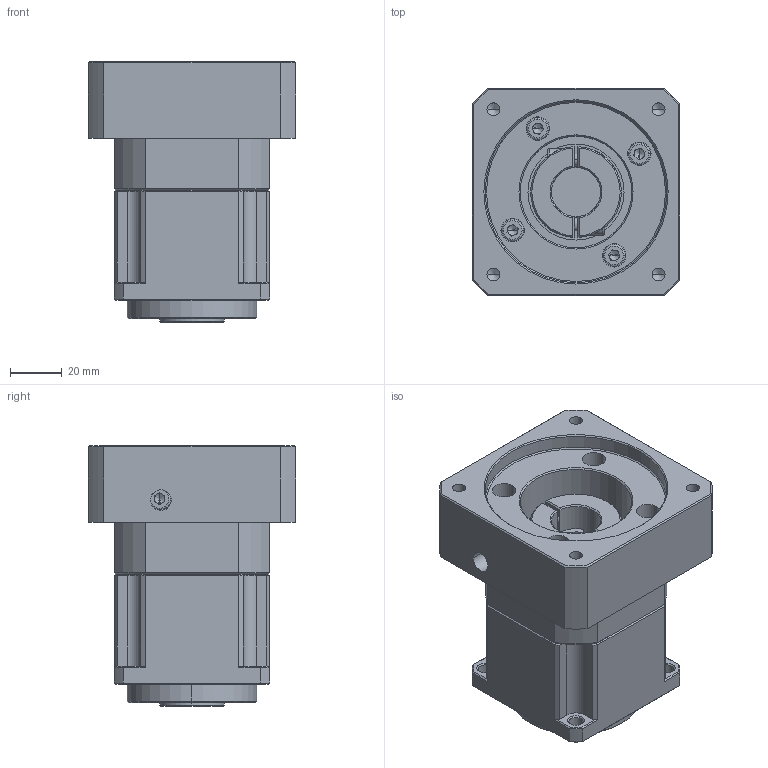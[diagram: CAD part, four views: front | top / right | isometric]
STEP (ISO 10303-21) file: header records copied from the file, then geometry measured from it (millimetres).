
FILE_DESCRIPTION (( 'STEP AP214' ), '1' );
FILE_NAME ('ZPB060-K16-L1-P1-19-70-90-M5.step', '2024-04-24T07:35:09', ( '' ), ( '' ), 'SwSTEP 2.0', 'SolidWorks 2016', '' );
FILE_SCHEMA (( 'AUTOMOTIVE_DESIGN' ));
Length unit declared in the file: millimetre
Products named in the file (1): ZPB060-K16-L1-P1-19-70-90-M5
Bounding box: 80 x 80 x 100.5 mm (x, y, z)
Volume: 321984.1 mm3; surface area: 69983.4 mm2
Topology: 9 solids, 18 shells, 1473 faces, 3940 edges, 2556 vertices
Faces by surface type: plane 850, bspline 315, cylinder 176, cone 120, torus 12
Entity records: 74957 total; most frequent: CARTESIAN_POINT 23873, ORIENTED_EDGE 7808, DIRECTION 6062, EDGE_CURVE 3904, VECTOR 2652, LINE 2652, VERTEX_POINT 2556, AXIS2_PLACEMENT_3D 1705
